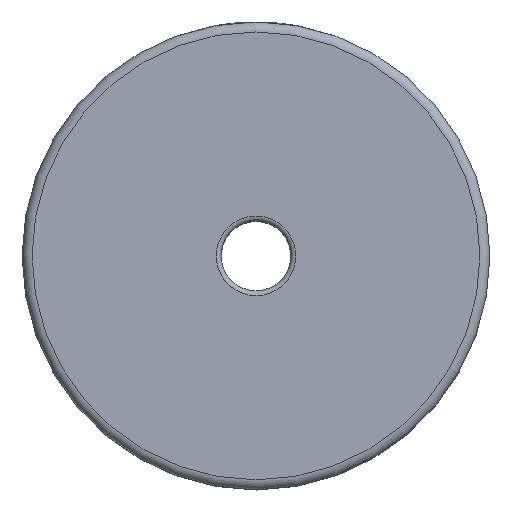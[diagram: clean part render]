
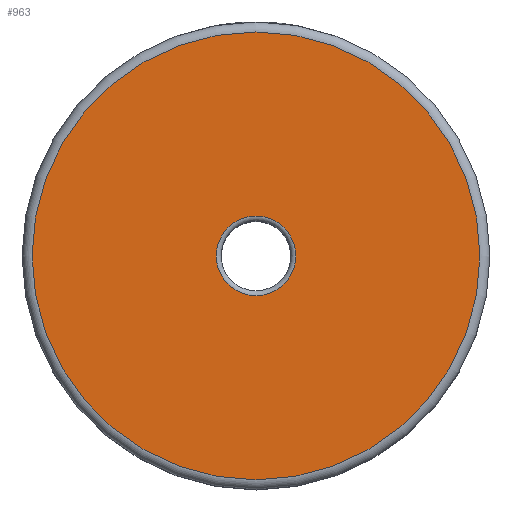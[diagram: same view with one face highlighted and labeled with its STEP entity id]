
A CAD part, top view. The second image highlights one B-rep face of the part: STEP entity #963.
In plain terms, the highlighted planar face has unit normal (0, 0, 1).
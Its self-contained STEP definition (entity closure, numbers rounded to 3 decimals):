
#14=FACE_BOUND('',#311,.T.);
#71=PLANE('',#1061);
#254=FACE_OUTER_BOUND('',#310,.T.);
#310=EDGE_LOOP('',(#764));
#311=EDGE_LOOP('',(#765));
#406=CIRCLE('',#1057,4.);
#410=CIRCLE('',#1062,22.5);
#473=VERTEX_POINT('',#1946);
#476=VERTEX_POINT('',#1954);
#582=EDGE_CURVE('',#473,#473,#406,.T.);
#586=EDGE_CURVE('',#476,#476,#410,.T.);
#764=ORIENTED_EDGE('',*,*,#586,.F.);
#765=ORIENTED_EDGE('',*,*,#582,.F.);
#963=ADVANCED_FACE('',(#254,#14),#71,.T.);
#1057=AXIS2_PLACEMENT_3D('',#1947,#1206,#1207);
#1061=AXIS2_PLACEMENT_3D('',#1953,#1214,#1215);
#1062=AXIS2_PLACEMENT_3D('',#1955,#1216,#1217);
#1206=DIRECTION('center_axis',(0.,0.,1.));
#1207=DIRECTION('ref_axis',(0.,1.,0.));
#1214=DIRECTION('center_axis',(0.,0.,1.));
#1215=DIRECTION('ref_axis',(1.,0.,0.));
#1216=DIRECTION('center_axis',(0.,0.,-1.));
#1217=DIRECTION('ref_axis',(0.,1.,0.));
#1946=CARTESIAN_POINT('',(4.,0.,0.));
#1947=CARTESIAN_POINT('Origin',(0.,0.,0.));
#1953=CARTESIAN_POINT('Origin',(0.,-23.5,0.));
#1954=CARTESIAN_POINT('',(22.5,0.,0.));
#1955=CARTESIAN_POINT('Origin',(0.,0.,0.));
